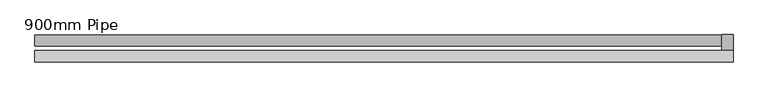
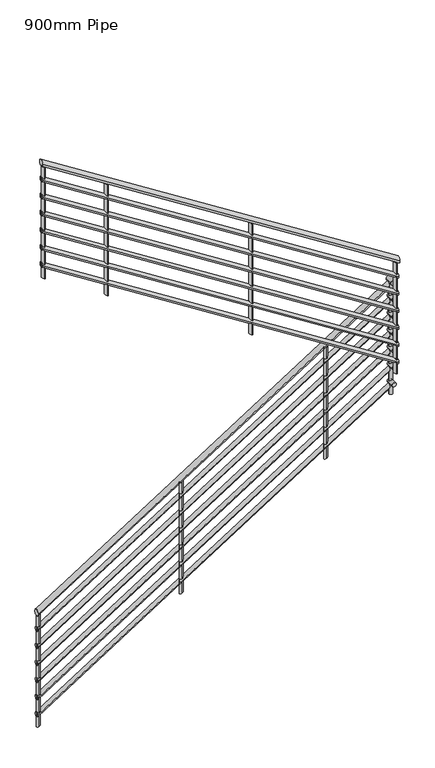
"""IFC4 building model written with IfcOpenShell, lengths in millimetres: railing geometry, 900mm Pipe."""

from ifc_helpers import new_model, si_unit, point, frame, frame_2d, origin, place, context, project, spatial, circle_curve, ellipse_curve, trimmed, segment, composite_curve, outline, extrude, source, transform, mapped, element, save
from ifc_brep_helpers import plane_surface, cylinder_surface, advanced_brep


def railing_900mm_pipe_91a3f817(model_context):
    return source(origin(), model_context, "Body", "SolidModel", [
        advanced_brep(
        [(9044.2181942, -645.4667097, 8051.2938094), (9044.2181942, -685.4667097, 8051.2938094), (11474.2181942, -645.4667097, 9597.6574458), (11474.2181942, -685.4667097, 9597.6574458)],
        [
            (0, 1, ellipse_curve(frame((9044.2181942, -665.4667097, 8051.2938094), z_axis=(-1.0, 0.0, 0.0), x_axis=(0.0, 0.0, -1.0)), 23.7061906, 20.0)),
            (1, 0, ellipse_curve(frame((9044.2181942, -665.4667097, 8051.2938094), z_axis=(-1.0, 0.0, 0.0), x_axis=(0.0, 0.0, -1.0)), 23.7061906, 20.0)),
            (2, 3, ellipse_curve(frame((11474.2181942, -665.4667097, 9597.6574458), z_axis=(1.0, 0.0, 0.0), x_axis=(0.0, 0.0, -1.0)), 23.7061906, 20.0)),
            (3, 2, ellipse_curve(frame((11474.2181942, -665.4667097, 9597.6574458), z_axis=(1.0, 0.0, 0.0), x_axis=(0.0, 0.0, -1.0)), 23.7061906, 20.0)),
            (1, 3),
            (2, 0),
        ],
        [
            plane_surface(frame((9044.2181942, -665.4667097, 8075.0), z_axis=(-1.0, 0.0, 0.0), x_axis=(0.0, 1.0, 0.0))),
            plane_surface(frame((11474.2181942, -665.4667097, 9621.3636364), z_axis=(1.0, 0.0, 0.0), x_axis=(0.0, 1.0, 0.0))),
            cylinder_surface(frame((9054.955704, -665.4667097, 8058.1267702), z_axis=(-0.8436614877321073, 0.0, -0.5368754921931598), x_axis=(0.0, -1.0, 0.0)), 20.0),
        ],
        [
            (0, [[1, 2]]),
            (1, [[3, 4]]),
            (2, [[-2, 5, -3, 6]]),
            (2, [[-1, -6, -4, -5]]),
        ],
    ),
        advanced_brep(
        [(11514.2181942, -645.4667097, 9630.0), (11474.2181942, -645.4667097, 9630.0), (11514.2181942, -702.0090589, 9630.0), (11474.2181942, -702.0090589, 9630.0)],
        [
            (0, 1, circle_curve(frame((11494.2181942, -645.4667097, 9630.0), z_axis=(0.0, 1.0, 0.0), x_axis=(-1.0, 0.0, 0.0)), 20.0)),
            (1, 0, circle_curve(frame((11494.2181942, -645.4667097, 9630.0), z_axis=(0.0, 1.0, 0.0), x_axis=(-1.0, 0.0, 0.0)), 20.0)),
            (2, 3, circle_curve(frame((11494.2181942, -702.0090589, 9630.0), z_axis=(0.0, -1.0, 0.0), x_axis=(-1.0, 0.0, 0.0)), 20.0)),
            (3, 2, circle_curve(frame((11494.2181942, -702.0090589, 9630.0), z_axis=(0.0, -1.0, 0.0), x_axis=(-1.0, 0.0, 0.0)), 20.0)),
            (1, 3),
            (2, 0),
        ],
        [
            plane_surface(frame((11494.2181942, -645.4667097, 9650.0), z_axis=(0.0, 1.0, 0.0), x_axis=(0.0, 0.0, -1.0))),
            plane_surface(frame((11494.2181942, -702.0090589, 9650.0), z_axis=(0.0, -1.0, 0.0), x_axis=(0.0, 0.0, -1.0))),
            cylinder_surface(frame((11494.2181942, -645.4667097, 9630.0), z_axis=(0.0, 1.0, 0.0), x_axis=(-1.0, 0.0, 0.0)), 20.0),
        ],
        [
            (0, [[1, 2]]),
            (1, [[3, 4]]),
            (2, [[-2, 5, -3, 6]]),
            (2, [[-1, -6, -4, -5]]),
        ],
    ),
        advanced_brep(
        [(11514.2181942, -742.0090589, 9804.4756276), (11514.2181942, -702.0090589, 9804.4756276), (9044.2181942, -742.0090589, 11376.2938094), (9044.2181942, -702.0090589, 11376.2938094)],
        [
            (0, 1, ellipse_curve(frame((11514.2181942, -722.0090589, 9804.4756276), z_axis=(1.0, 0.0, 0.0), x_axis=(0.0, 0.0, -1.0)), 23.7061906, 20.0)),
            (1, 0, ellipse_curve(frame((11514.2181942, -722.0090589, 9804.4756276), z_axis=(1.0, 0.0, 0.0), x_axis=(0.0, 0.0, -1.0)), 23.7061906, 20.0)),
            (2, 3, ellipse_curve(frame((9044.2181942, -722.0090589, 11376.2938094), z_axis=(-1.0, 0.0, 0.0), x_axis=(0.0, 0.0, -1.0)), 23.7061906, 20.0)),
            (3, 2, ellipse_curve(frame((9044.2181942, -722.0090589, 11376.2938094), z_axis=(-1.0, 0.0, 0.0), x_axis=(0.0, 0.0, -1.0)), 23.7061906, 20.0)),
            (1, 3),
            (2, 0),
        ],
        [
            plane_surface(frame((11514.2181942, -722.0090589, 9828.1818182), z_axis=(1.0, 0.0, 0.0), x_axis=(0.0, -1.0, 0.0))),
            plane_surface(frame((9044.2181942, -722.0090589, 11400.0), z_axis=(-1.0, 0.0, 0.0), x_axis=(0.0, -1.0, 0.0))),
            cylinder_surface(frame((11503.4806843, -722.0090589, 9811.3085884), z_axis=(0.8436614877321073, 0.0, -0.5368754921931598), x_axis=(0.0, 1.0, 0.0)), 20.0),
        ],
        [
            (0, [[1, 2]]),
            (1, [[3, 4]]),
            (2, [[-2, 5, -3, 6]]),
            (2, [[-1, -6, -4, -5]]),
        ],
    ),
        advanced_brep(
        [(9044.2181942, -650.4667097, 7932.2203571), (9044.2181942, -680.4667097, 7932.2203571), (11479.2181942, -650.4667097, 9481.7658116), (11479.2181942, -680.4667097, 9481.7658116)],
        [
            (0, 1, ellipse_curve(frame((9044.2181942, -665.4667097, 7932.2203571), z_axis=(-1.0, 0.0, 0.0), x_axis=(0.0, 0.0, -1.0)), 17.7796429, 15.0)),
            (1, 0, ellipse_curve(frame((9044.2181942, -665.4667097, 7932.2203571), z_axis=(-1.0, 0.0, 0.0), x_axis=(0.0, 0.0, -1.0)), 17.7796429, 15.0)),
            (2, 3, ellipse_curve(frame((11479.2181942, -665.4667097, 9481.7658116), z_axis=(1.0, 0.0, 0.0), x_axis=(0.0, 0.0, -1.0)), 17.7796429, 15.0)),
            (3, 2, ellipse_curve(frame((11479.2181942, -665.4667097, 9481.7658116), z_axis=(1.0, 0.0, 0.0), x_axis=(0.0, 0.0, -1.0)), 17.7796429, 15.0)),
            (1, 3),
            (2, 0),
        ],
        [
            plane_surface(frame((9044.2181942, -665.4667097, 7950.0), z_axis=(-1.0, 0.0, 0.0), x_axis=(0.0, 1.0, 0.0))),
            plane_surface(frame((11479.2181942, -665.4667097, 9499.5454545), z_axis=(1.0, 0.0, 0.0), x_axis=(0.0, 1.0, 0.0))),
            cylinder_surface(frame((9052.2713265, -665.4667097, 7937.3450777), z_axis=(-0.8436614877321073, 0.0, -0.5368754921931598), x_axis=(0.0, -1.0, 0.0)), 15.0),
        ],
        [
            (0, [[1, 2]]),
            (1, [[3, 4]]),
            (2, [[-2, 5, -3, 6]]),
            (2, [[-1, -6, -4, -5]]),
        ],
    ),
        advanced_brep(
        [(11509.2181942, -650.4667097, 9510.0), (11479.2181942, -650.4667097, 9510.0), (11509.2181942, -707.0090589, 9510.0), (11479.2181942, -707.0090589, 9510.0)],
        [
            (0, 1, circle_curve(frame((11494.2181942, -650.4667097, 9510.0), z_axis=(0.0, 1.0, 0.0), x_axis=(-1.0, 0.0, 0.0)), 15.0)),
            (1, 0, circle_curve(frame((11494.2181942, -650.4667097, 9510.0), z_axis=(0.0, 1.0, 0.0), x_axis=(-1.0, 0.0, 0.0)), 15.0)),
            (2, 3, circle_curve(frame((11494.2181942, -707.0090589, 9510.0), z_axis=(0.0, -1.0, 0.0), x_axis=(-1.0, 0.0, 0.0)), 15.0)),
            (3, 2, circle_curve(frame((11494.2181942, -707.0090589, 9510.0), z_axis=(0.0, -1.0, 0.0), x_axis=(-1.0, 0.0, 0.0)), 15.0)),
            (1, 3),
            (2, 0),
        ],
        [
            plane_surface(frame((11494.2181942, -650.4667097, 9525.0), z_axis=(0.0, 1.0, 0.0), x_axis=(0.0, 0.0, -1.0))),
            plane_surface(frame((11494.2181942, -707.0090589, 9525.0), z_axis=(0.0, -1.0, 0.0), x_axis=(0.0, 0.0, -1.0))),
            cylinder_surface(frame((11494.2181942, -650.4667097, 9510.0), z_axis=(0.0, 1.0, 0.0), x_axis=(-1.0, 0.0, 0.0)), 15.0),
        ],
        [
            (0, [[1, 2]]),
            (1, [[3, 4]]),
            (2, [[-2, 5, -3, 6]]),
            (2, [[-1, -6, -4, -5]]),
        ],
    ),
        advanced_brep(
        [(11509.2181942, -737.0090589, 9688.5839934), (11509.2181942, -707.0090589, 9688.5839934), (9044.2181942, -737.0090589, 11257.2203571), (9044.2181942, -707.0090589, 11257.2203571)],
        [
            (0, 1, ellipse_curve(frame((11509.2181942, -722.0090589, 9688.5839934), z_axis=(1.0, 0.0, 0.0), x_axis=(0.0, 0.0, -1.0)), 17.7796429, 15.0)),
            (1, 0, ellipse_curve(frame((11509.2181942, -722.0090589, 9688.5839934), z_axis=(1.0, 0.0, 0.0), x_axis=(0.0, 0.0, -1.0)), 17.7796429, 15.0)),
            (2, 3, ellipse_curve(frame((9044.2181942, -722.0090589, 11257.2203571), z_axis=(-1.0, 0.0, 0.0), x_axis=(0.0, 0.0, -1.0)), 17.7796429, 15.0)),
            (3, 2, ellipse_curve(frame((9044.2181942, -722.0090589, 11257.2203571), z_axis=(-1.0, 0.0, 0.0), x_axis=(0.0, 0.0, -1.0)), 17.7796429, 15.0)),
            (1, 3),
            (2, 0),
        ],
        [
            plane_surface(frame((11509.2181942, -722.0090589, 9706.3636364), z_axis=(1.0, 0.0, 0.0), x_axis=(0.0, -1.0, 0.0))),
            plane_surface(frame((9044.2181942, -722.0090589, 11275.0), z_axis=(-1.0, 0.0, 0.0), x_axis=(0.0, -1.0, 0.0))),
            cylinder_surface(frame((11501.1650618, -722.0090589, 9693.708714), z_axis=(0.8436614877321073, 0.0, -0.5368754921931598), x_axis=(0.0, 1.0, 0.0)), 15.0),
        ],
        [
            (0, [[1, 2]]),
            (1, [[3, 4]]),
            (2, [[-2, 5, -3, 6]]),
            (2, [[-1, -6, -4, -5]]),
        ],
    ),
        advanced_brep(
        [(9044.2181942, -650.4667097, 7807.2203571), (9044.2181942, -680.4667097, 7807.2203571), (11479.2181942, -650.4667097, 9356.7658116), (11479.2181942, -680.4667097, 9356.7658116)],
        [
            (0, 1, ellipse_curve(frame((9044.2181942, -665.4667097, 7807.2203571), z_axis=(-1.0, 0.0, 0.0), x_axis=(0.0, 0.0, -1.0)), 17.7796429, 15.0)),
            (1, 0, ellipse_curve(frame((9044.2181942, -665.4667097, 7807.2203571), z_axis=(-1.0, 0.0, 0.0), x_axis=(0.0, 0.0, -1.0)), 17.7796429, 15.0)),
            (2, 3, ellipse_curve(frame((11479.2181942, -665.4667097, 9356.7658116), z_axis=(1.0, 0.0, 0.0), x_axis=(0.0, 0.0, -1.0)), 17.7796429, 15.0)),
            (3, 2, ellipse_curve(frame((11479.2181942, -665.4667097, 9356.7658116), z_axis=(1.0, 0.0, 0.0), x_axis=(0.0, 0.0, -1.0)), 17.7796429, 15.0)),
            (1, 3),
            (2, 0),
        ],
        [
            plane_surface(frame((9044.2181942, -665.4667097, 7825.0), z_axis=(-1.0, 0.0, 0.0), x_axis=(0.0, 1.0, 0.0))),
            plane_surface(frame((11479.2181942, -665.4667097, 9374.5454545), z_axis=(1.0, 0.0, 0.0), x_axis=(0.0, 1.0, 0.0))),
            cylinder_surface(frame((9052.2713265, -665.4667097, 7812.3450777), z_axis=(-0.8436614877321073, 0.0, -0.5368754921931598), x_axis=(0.0, -1.0, 0.0)), 15.0),
        ],
        [
            (0, [[1, 2]]),
            (1, [[3, 4]]),
            (2, [[-2, 5, -3, 6]]),
            (2, [[-1, -6, -4, -5]]),
        ],
    ),
        advanced_brep(
        [(11509.2181942, -650.4667097, 9385.0), (11479.2181942, -650.4667097, 9385.0), (11509.2181942, -707.0090589, 9385.0), (11479.2181942, -707.0090589, 9385.0)],
        [
            (0, 1, circle_curve(frame((11494.2181942, -650.4667097, 9385.0), z_axis=(0.0, 1.0, 0.0), x_axis=(-1.0, 0.0, 0.0)), 15.0)),
            (1, 0, circle_curve(frame((11494.2181942, -650.4667097, 9385.0), z_axis=(0.0, 1.0, 0.0), x_axis=(-1.0, 0.0, 0.0)), 15.0)),
            (2, 3, circle_curve(frame((11494.2181942, -707.0090589, 9385.0), z_axis=(0.0, -1.0, 0.0), x_axis=(-1.0, 0.0, 0.0)), 15.0)),
            (3, 2, circle_curve(frame((11494.2181942, -707.0090589, 9385.0), z_axis=(0.0, -1.0, 0.0), x_axis=(-1.0, 0.0, 0.0)), 15.0)),
            (1, 3),
            (2, 0),
        ],
        [
            plane_surface(frame((11494.2181942, -650.4667097, 9400.0), z_axis=(0.0, 1.0, 0.0), x_axis=(0.0, 0.0, -1.0))),
            plane_surface(frame((11494.2181942, -707.0090589, 9400.0), z_axis=(0.0, -1.0, 0.0), x_axis=(0.0, 0.0, -1.0))),
            cylinder_surface(frame((11494.2181942, -650.4667097, 9385.0), z_axis=(0.0, 1.0, 0.0), x_axis=(-1.0, 0.0, 0.0)), 15.0),
        ],
        [
            (0, [[1, 2]]),
            (1, [[3, 4]]),
            (2, [[-2, 5, -3, 6]]),
            (2, [[-1, -6, -4, -5]]),
        ],
    ),
        advanced_brep(
        [(11509.2181942, -737.0090589, 9563.5839934), (11509.2181942, -707.0090589, 9563.5839934), (9044.2181942, -737.0090589, 11132.2203571), (9044.2181942, -707.0090589, 11132.2203571)],
        [
            (0, 1, ellipse_curve(frame((11509.2181942, -722.0090589, 9563.5839934), z_axis=(1.0, 0.0, 0.0), x_axis=(0.0, 0.0, -1.0)), 17.7796429, 15.0)),
            (1, 0, ellipse_curve(frame((11509.2181942, -722.0090589, 9563.5839934), z_axis=(1.0, 0.0, 0.0), x_axis=(0.0, 0.0, -1.0)), 17.7796429, 15.0)),
            (2, 3, ellipse_curve(frame((9044.2181942, -722.0090589, 11132.2203571), z_axis=(-1.0, 0.0, 0.0), x_axis=(0.0, 0.0, -1.0)), 17.7796429, 15.0)),
            (3, 2, ellipse_curve(frame((9044.2181942, -722.0090589, 11132.2203571), z_axis=(-1.0, 0.0, 0.0), x_axis=(0.0, 0.0, -1.0)), 17.7796429, 15.0)),
            (1, 3),
            (2, 0),
        ],
        [
            plane_surface(frame((11509.2181942, -722.0090589, 9581.3636364), z_axis=(1.0, 0.0, 0.0), x_axis=(0.0, -1.0, 0.0))),
            plane_surface(frame((9044.2181942, -722.0090589, 11150.0), z_axis=(-1.0, 0.0, 0.0), x_axis=(0.0, -1.0, 0.0))),
            cylinder_surface(frame((11501.1650618, -722.0090589, 9568.708714), z_axis=(0.8436614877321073, 0.0, -0.5368754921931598), x_axis=(0.0, 1.0, 0.0)), 15.0),
        ],
        [
            (0, [[1, 2]]),
            (1, [[3, 4]]),
            (2, [[-2, 5, -3, 6]]),
            (2, [[-1, -6, -4, -5]]),
        ],
    ),
        advanced_brep(
        [(9044.2181942, -650.4667097, 7682.2203571), (9044.2181942, -680.4667097, 7682.2203571), (11479.2181942, -650.4667097, 9231.7658116), (11479.2181942, -680.4667097, 9231.7658116)],
        [
            (0, 1, ellipse_curve(frame((9044.2181942, -665.4667097, 7682.2203571), z_axis=(-1.0, 0.0, 0.0), x_axis=(0.0, 0.0, -1.0)), 17.7796429, 15.0)),
            (1, 0, ellipse_curve(frame((9044.2181942, -665.4667097, 7682.2203571), z_axis=(-1.0, 0.0, 0.0), x_axis=(0.0, 0.0, -1.0)), 17.7796429, 15.0)),
            (2, 3, ellipse_curve(frame((11479.2181942, -665.4667097, 9231.7658116), z_axis=(1.0, 0.0, 0.0), x_axis=(0.0, 0.0, -1.0)), 17.7796429, 15.0)),
            (3, 2, ellipse_curve(frame((11479.2181942, -665.4667097, 9231.7658116), z_axis=(1.0, 0.0, 0.0), x_axis=(0.0, 0.0, -1.0)), 17.7796429, 15.0)),
            (1, 3),
            (2, 0),
        ],
        [
            plane_surface(frame((9044.2181942, -665.4667097, 7700.0), z_axis=(-1.0, 0.0, 0.0), x_axis=(0.0, 1.0, 0.0))),
            plane_surface(frame((11479.2181942, -665.4667097, 9249.5454545), z_axis=(1.0, 0.0, 0.0), x_axis=(0.0, 1.0, 0.0))),
            cylinder_surface(frame((9052.2713265, -665.4667097, 7687.3450777), z_axis=(-0.8436614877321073, 0.0, -0.5368754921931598), x_axis=(0.0, -1.0, 0.0)), 15.0),
        ],
        [
            (0, [[1, 2]]),
            (1, [[3, 4]]),
            (2, [[-2, 5, -3, 6]]),
            (2, [[-1, -6, -4, -5]]),
        ],
    ),
        advanced_brep(
        [(11509.2181942, -650.4667097, 9260.0), (11479.2181942, -650.4667097, 9260.0), (11509.2181942, -707.0090589, 9260.0), (11479.2181942, -707.0090589, 9260.0)],
        [
            (0, 1, circle_curve(frame((11494.2181942, -650.4667097, 9260.0), z_axis=(0.0, 1.0, 0.0), x_axis=(-1.0, 0.0, 0.0)), 15.0)),
            (1, 0, circle_curve(frame((11494.2181942, -650.4667097, 9260.0), z_axis=(0.0, 1.0, 0.0), x_axis=(-1.0, 0.0, 0.0)), 15.0)),
            (2, 3, circle_curve(frame((11494.2181942, -707.0090589, 9260.0), z_axis=(0.0, -1.0, 0.0), x_axis=(-1.0, 0.0, 0.0)), 15.0)),
            (3, 2, circle_curve(frame((11494.2181942, -707.0090589, 9260.0), z_axis=(0.0, -1.0, 0.0), x_axis=(-1.0, 0.0, 0.0)), 15.0)),
            (1, 3),
            (2, 0),
        ],
        [
            plane_surface(frame((11494.2181942, -650.4667097, 9275.0), z_axis=(0.0, 1.0, 0.0), x_axis=(0.0, 0.0, -1.0))),
            plane_surface(frame((11494.2181942, -707.0090589, 9275.0), z_axis=(0.0, -1.0, 0.0), x_axis=(0.0, 0.0, -1.0))),
            cylinder_surface(frame((11494.2181942, -650.4667097, 9260.0), z_axis=(0.0, 1.0, 0.0), x_axis=(-1.0, 0.0, 0.0)), 15.0),
        ],
        [
            (0, [[1, 2]]),
            (1, [[3, 4]]),
            (2, [[-2, 5, -3, 6]]),
            (2, [[-1, -6, -4, -5]]),
        ],
    ),
        advanced_brep(
        [(11509.2181942, -737.0090589, 9438.5839934), (11509.2181942, -707.0090589, 9438.5839934), (9044.2181942, -737.0090589, 11007.2203571), (9044.2181942, -707.0090589, 11007.2203571)],
        [
            (0, 1, ellipse_curve(frame((11509.2181942, -722.0090589, 9438.5839934), z_axis=(1.0, 0.0, 0.0), x_axis=(0.0, 0.0, -1.0)), 17.7796429, 15.0)),
            (1, 0, ellipse_curve(frame((11509.2181942, -722.0090589, 9438.5839934), z_axis=(1.0, 0.0, 0.0), x_axis=(0.0, 0.0, -1.0)), 17.7796429, 15.0)),
            (2, 3, ellipse_curve(frame((9044.2181942, -722.0090589, 11007.2203571), z_axis=(-1.0, 0.0, 0.0), x_axis=(0.0, 0.0, -1.0)), 17.7796429, 15.0)),
            (3, 2, ellipse_curve(frame((9044.2181942, -722.0090589, 11007.2203571), z_axis=(-1.0, 0.0, 0.0), x_axis=(0.0, 0.0, -1.0)), 17.7796429, 15.0)),
            (1, 3),
            (2, 0),
        ],
        [
            plane_surface(frame((11509.2181942, -722.0090589, 9456.3636364), z_axis=(1.0, 0.0, 0.0), x_axis=(0.0, -1.0, 0.0))),
            plane_surface(frame((9044.2181942, -722.0090589, 11025.0), z_axis=(-1.0, 0.0, 0.0), x_axis=(0.0, -1.0, 0.0))),
            cylinder_surface(frame((11501.1650618, -722.0090589, 9443.708714), z_axis=(0.843661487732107, 0.0, -0.53687549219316), x_axis=(0.0, 1.0, 0.0)), 15.0),
        ],
        [
            (0, [[1, 2]]),
            (1, [[3, 4]]),
            (2, [[-2, 5, -3, 6]]),
            (2, [[-1, -6, -4, -5]]),
        ],
    ),
        advanced_brep(
        [(9044.2181942, -650.4667097, 7557.2203571), (9044.2181942, -680.4667097, 7557.2203571), (11479.2181942, -650.4667097, 9106.7658116), (11479.2181942, -680.4667097, 9106.7658116)],
        [
            (0, 1, ellipse_curve(frame((9044.2181942, -665.4667097, 7557.2203571), z_axis=(-1.0, 0.0, 0.0), x_axis=(0.0, 0.0, -1.0)), 17.7796429, 15.0)),
            (1, 0, ellipse_curve(frame((9044.2181942, -665.4667097, 7557.2203571), z_axis=(-1.0, 0.0, 0.0), x_axis=(0.0, 0.0, -1.0)), 17.7796429, 15.0)),
            (2, 3, ellipse_curve(frame((11479.2181942, -665.4667097, 9106.7658116), z_axis=(1.0, 0.0, 0.0), x_axis=(0.0, 0.0, -1.0)), 17.7796429, 15.0)),
            (3, 2, ellipse_curve(frame((11479.2181942, -665.4667097, 9106.7658116), z_axis=(1.0, 0.0, 0.0), x_axis=(0.0, 0.0, -1.0)), 17.7796429, 15.0)),
            (1, 3),
            (2, 0),
        ],
        [
            plane_surface(frame((9044.2181942, -665.4667097, 7575.0), z_axis=(-1.0, 0.0, 0.0), x_axis=(0.0, 1.0, 0.0))),
            plane_surface(frame((11479.2181942, -665.4667097, 9124.5454545), z_axis=(1.0, 0.0, 0.0), x_axis=(0.0, 1.0, 0.0))),
            cylinder_surface(frame((9052.2713265, -665.4667097, 7562.3450777), z_axis=(-0.8436614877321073, 0.0, -0.5368754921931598), x_axis=(0.0, -1.0, 0.0)), 15.0),
        ],
        [
            (0, [[1, 2]]),
            (1, [[3, 4]]),
            (2, [[-2, 5, -3, 6]]),
            (2, [[-1, -6, -4, -5]]),
        ],
    ),
        advanced_brep(
        [(11509.2181942, -650.4667097, 9135.0), (11479.2181942, -650.4667097, 9135.0), (11509.2181942, -707.0090589, 9135.0), (11479.2181942, -707.0090589, 9135.0)],
        [
            (0, 1, circle_curve(frame((11494.2181942, -650.4667097, 9135.0), z_axis=(0.0, 1.0, 0.0), x_axis=(-1.0, 0.0, 0.0)), 15.0)),
            (1, 0, circle_curve(frame((11494.2181942, -650.4667097, 9135.0), z_axis=(0.0, 1.0, 0.0), x_axis=(-1.0, 0.0, 0.0)), 15.0)),
            (2, 3, circle_curve(frame((11494.2181942, -707.0090589, 9135.0), z_axis=(0.0, -1.0, 0.0), x_axis=(-1.0, 0.0, 0.0)), 15.0)),
            (3, 2, circle_curve(frame((11494.2181942, -707.0090589, 9135.0), z_axis=(0.0, -1.0, 0.0), x_axis=(-1.0, 0.0, 0.0)), 15.0)),
            (1, 3),
            (2, 0),
        ],
        [
            plane_surface(frame((11494.2181942, -650.4667097, 9150.0), z_axis=(0.0, 1.0, 0.0), x_axis=(0.0, 0.0, -1.0))),
            plane_surface(frame((11494.2181942, -707.0090589, 9150.0), z_axis=(0.0, -1.0, 0.0), x_axis=(0.0, 0.0, -1.0))),
            cylinder_surface(frame((11494.2181942, -650.4667097, 9135.0), z_axis=(0.0, 1.0, 0.0), x_axis=(-1.0, 0.0, 0.0)), 15.0),
        ],
        [
            (0, [[1, 2]]),
            (1, [[3, 4]]),
            (2, [[-2, 5, -3, 6]]),
            (2, [[-1, -6, -4, -5]]),
        ],
    ),
        advanced_brep(
        [(11509.2181942, -737.0090589, 9313.5839934), (11509.2181942, -707.0090589, 9313.5839934), (9044.2181942, -737.0090589, 10882.2203571), (9044.2181942, -707.0090589, 10882.2203571)],
        [
            (0, 1, ellipse_curve(frame((11509.2181942, -722.0090589, 9313.5839934), z_axis=(1.0, 0.0, 0.0), x_axis=(0.0, 0.0, -1.0)), 17.7796429, 15.0)),
            (1, 0, ellipse_curve(frame((11509.2181942, -722.0090589, 9313.5839934), z_axis=(1.0, 0.0, 0.0), x_axis=(0.0, 0.0, -1.0)), 17.7796429, 15.0)),
            (2, 3, ellipse_curve(frame((9044.2181942, -722.0090589, 10882.2203571), z_axis=(-1.0, 0.0, 0.0), x_axis=(0.0, 0.0, -1.0)), 17.7796429, 15.0)),
            (3, 2, ellipse_curve(frame((9044.2181942, -722.0090589, 10882.2203571), z_axis=(-1.0, 0.0, 0.0), x_axis=(0.0, 0.0, -1.0)), 17.7796429, 15.0)),
            (1, 3),
            (2, 0),
        ],
        [
            plane_surface(frame((11509.2181942, -722.0090589, 9331.3636364), z_axis=(1.0, 0.0, 0.0), x_axis=(0.0, -1.0, 0.0))),
            plane_surface(frame((9044.2181942, -722.0090589, 10900.0), z_axis=(-1.0, 0.0, 0.0), x_axis=(0.0, -1.0, 0.0))),
            cylinder_surface(frame((11501.1650618, -722.0090589, 9318.708714), z_axis=(0.843661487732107, 0.0, -0.53687549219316), x_axis=(0.0, 1.0, 0.0)), 15.0),
        ],
        [
            (0, [[1, 2]]),
            (1, [[3, 4]]),
            (2, [[-2, 5, -3, 6]]),
            (2, [[-1, -6, -4, -5]]),
        ],
    ),
        advanced_brep(
        [(9044.2181942, -650.4667097, 7432.2203571), (9044.2181942, -680.4667097, 7432.2203571), (11479.2181942, -650.4667097, 8981.7658116), (11479.2181942, -680.4667097, 8981.7658116)],
        [
            (0, 1, ellipse_curve(frame((9044.2181942, -665.4667097, 7432.2203571), z_axis=(-1.0, 0.0, 0.0), x_axis=(0.0, 0.0, -1.0)), 17.7796429, 15.0)),
            (1, 0, ellipse_curve(frame((9044.2181942, -665.4667097, 7432.2203571), z_axis=(-1.0, 0.0, 0.0), x_axis=(0.0, 0.0, -1.0)), 17.7796429, 15.0)),
            (2, 3, ellipse_curve(frame((11479.2181942, -665.4667097, 8981.7658116), z_axis=(1.0, 0.0, 0.0), x_axis=(0.0, 0.0, -1.0)), 17.7796429, 15.0)),
            (3, 2, ellipse_curve(frame((11479.2181942, -665.4667097, 8981.7658116), z_axis=(1.0, 0.0, 0.0), x_axis=(0.0, 0.0, -1.0)), 17.7796429, 15.0)),
            (1, 3),
            (2, 0),
        ],
        [
            plane_surface(frame((9044.2181942, -665.4667097, 7450.0), z_axis=(-1.0, 0.0, 0.0), x_axis=(0.0, 1.0, 0.0))),
            plane_surface(frame((11479.2181942, -665.4667097, 8999.5454545), z_axis=(1.0, 0.0, 0.0), x_axis=(0.0, 1.0, 0.0))),
            cylinder_surface(frame((9052.2713265, -665.4667097, 7437.3450777), z_axis=(-0.8436614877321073, 0.0, -0.5368754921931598), x_axis=(0.0, -1.0, 0.0)), 15.0),
        ],
        [
            (0, [[1, 2]]),
            (1, [[3, 4]]),
            (2, [[-2, 5, -3, 6]]),
            (2, [[-1, -6, -4, -5]]),
        ],
    ),
        advanced_brep(
        [(11509.2181942, -650.4667097, 9010.0), (11479.2181942, -650.4667097, 9010.0), (11509.2181942, -707.0090589, 9010.0), (11479.2181942, -707.0090589, 9010.0)],
        [
            (0, 1, circle_curve(frame((11494.2181942, -650.4667097, 9010.0), z_axis=(0.0, 1.0, 0.0), x_axis=(-1.0, 0.0, 0.0)), 15.0)),
            (1, 0, circle_curve(frame((11494.2181942, -650.4667097, 9010.0), z_axis=(0.0, 1.0, 0.0), x_axis=(-1.0, 0.0, 0.0)), 15.0)),
            (2, 3, circle_curve(frame((11494.2181942, -707.0090589, 9010.0), z_axis=(0.0, -1.0, 0.0), x_axis=(-1.0, 0.0, 0.0)), 15.0)),
            (3, 2, circle_curve(frame((11494.2181942, -707.0090589, 9010.0), z_axis=(0.0, -1.0, 0.0), x_axis=(-1.0, 0.0, 0.0)), 15.0)),
            (1, 3),
            (2, 0),
        ],
        [
            plane_surface(frame((11494.2181942, -650.4667097, 9025.0), z_axis=(0.0, 1.0, 0.0), x_axis=(0.0, 0.0, -1.0))),
            plane_surface(frame((11494.2181942, -707.0090589, 9025.0), z_axis=(0.0, -1.0, 0.0), x_axis=(0.0, 0.0, -1.0))),
            cylinder_surface(frame((11494.2181942, -650.4667097, 9010.0), z_axis=(0.0, 1.0, 0.0), x_axis=(-1.0, 0.0, 0.0)), 15.0),
        ],
        [
            (0, [[1, 2]]),
            (1, [[3, 4]]),
            (2, [[-2, 5, -3, 6]]),
            (2, [[-1, -6, -4, -5]]),
        ],
    ),
        advanced_brep(
        [(11509.2181942, -737.0090589, 9188.5839934), (11509.2181942, -707.0090589, 9188.5839934), (9044.2181942, -737.0090589, 10757.2203571), (9044.2181942, -707.0090589, 10757.2203571)],
        [
            (0, 1, ellipse_curve(frame((11509.2181942, -722.0090589, 9188.5839934), z_axis=(1.0, 0.0, 0.0), x_axis=(0.0, 0.0, -1.0)), 17.7796429, 15.0)),
            (1, 0, ellipse_curve(frame((11509.2181942, -722.0090589, 9188.5839934), z_axis=(1.0, 0.0, 0.0), x_axis=(0.0, 0.0, -1.0)), 17.7796429, 15.0)),
            (2, 3, ellipse_curve(frame((9044.2181942, -722.0090589, 10757.2203571), z_axis=(-1.0, 0.0, 0.0), x_axis=(0.0, 0.0, -1.0)), 17.7796429, 15.0)),
            (3, 2, ellipse_curve(frame((9044.2181942, -722.0090589, 10757.2203571), z_axis=(-1.0, 0.0, 0.0), x_axis=(0.0, 0.0, -1.0)), 17.7796429, 15.0)),
            (1, 3),
            (2, 0),
        ],
        [
            plane_surface(frame((11509.2181942, -722.0090589, 9206.3636364), z_axis=(1.0, 0.0, 0.0), x_axis=(0.0, -1.0, 0.0))),
            plane_surface(frame((9044.2181942, -722.0090589, 10775.0), z_axis=(-1.0, 0.0, 0.0), x_axis=(0.0, -1.0, 0.0))),
            cylinder_surface(frame((11501.1650618, -722.0090589, 9193.708714), z_axis=(0.843661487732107, 0.0, -0.53687549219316), x_axis=(0.0, 1.0, 0.0)), 15.0),
        ],
        [
            (0, [[1, 2]]),
            (1, [[3, 4]]),
            (2, [[-2, 5, -3, 6]]),
            (2, [[-1, -6, -4, -5]]),
        ],
    ),
        advanced_brep(
        [(9044.2181942, -650.4667097, 7307.2203571), (9044.2181942, -680.4667097, 7307.2203571), (11479.2181942, -650.4667097, 8856.7658116), (11479.2181942, -680.4667097, 8856.7658116)],
        [
            (0, 1, ellipse_curve(frame((9044.2181942, -665.4667097, 7307.2203571), z_axis=(-1.0, 0.0, 0.0), x_axis=(0.0, 0.0, -1.0)), 17.7796429, 15.0)),
            (1, 0, ellipse_curve(frame((9044.2181942, -665.4667097, 7307.2203571), z_axis=(-1.0, 0.0, 0.0), x_axis=(0.0, 0.0, -1.0)), 17.7796429, 15.0)),
            (2, 3, ellipse_curve(frame((11479.2181942, -665.4667097, 8856.7658116), z_axis=(1.0, 0.0, 0.0), x_axis=(0.0, 0.0, -1.0)), 17.7796429, 15.0)),
            (3, 2, ellipse_curve(frame((11479.2181942, -665.4667097, 8856.7658116), z_axis=(1.0, 0.0, 0.0), x_axis=(0.0, 0.0, -1.0)), 17.7796429, 15.0)),
            (1, 3),
            (2, 0),
        ],
        [
            plane_surface(frame((9044.2181942, -665.4667097, 7325.0), z_axis=(-1.0, 0.0, 0.0), x_axis=(0.0, 1.0, 0.0))),
            plane_surface(frame((11479.2181942, -665.4667097, 8874.5454545), z_axis=(1.0, 0.0, 0.0), x_axis=(0.0, 1.0, 0.0))),
            cylinder_surface(frame((9052.2713265, -665.4667097, 7312.3450777), z_axis=(-0.8436614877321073, 0.0, -0.5368754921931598), x_axis=(0.0, -1.0, 0.0)), 15.0),
        ],
        [
            (0, [[1, 2]]),
            (1, [[3, 4]]),
            (2, [[-2, 5, -3, 6]]),
            (2, [[-1, -6, -4, -5]]),
        ],
    ),
        advanced_brep(
        [(11509.2181942, -650.4667097, 8885.0), (11479.2181942, -650.4667097, 8885.0), (11509.2181942, -707.0090589, 8885.0), (11479.2181942, -707.0090589, 8885.0)],
        [
            (0, 1, circle_curve(frame((11494.2181942, -650.4667097, 8885.0), z_axis=(0.0, 1.0, 0.0), x_axis=(-1.0, 0.0, 0.0)), 15.0)),
            (1, 0, circle_curve(frame((11494.2181942, -650.4667097, 8885.0), z_axis=(0.0, 1.0, 0.0), x_axis=(-1.0, 0.0, 0.0)), 15.0)),
            (2, 3, circle_curve(frame((11494.2181942, -707.0090589, 8885.0), z_axis=(0.0, -1.0, 0.0), x_axis=(-1.0, 0.0, 0.0)), 15.0)),
            (3, 2, circle_curve(frame((11494.2181942, -707.0090589, 8885.0), z_axis=(0.0, -1.0, 0.0), x_axis=(-1.0, 0.0, 0.0)), 15.0)),
            (1, 3),
            (2, 0),
        ],
        [
            plane_surface(frame((11494.2181942, -650.4667097, 8900.0), z_axis=(0.0, 1.0, 0.0), x_axis=(0.0, 0.0, -1.0))),
            plane_surface(frame((11494.2181942, -707.0090589, 8900.0), z_axis=(0.0, -1.0, 0.0), x_axis=(0.0, 0.0, -1.0))),
            cylinder_surface(frame((11494.2181942, -650.4667097, 8885.0), z_axis=(0.0, 1.0, 0.0), x_axis=(-1.0, 0.0, 0.0)), 15.0),
        ],
        [
            (0, [[1, 2]]),
            (1, [[3, 4]]),
            (2, [[-2, 5, -3, 6]]),
            (2, [[-1, -6, -4, -5]]),
        ],
    ),
        advanced_brep(
        [(11509.2181942, -737.0090589, 9063.5839934), (11509.2181942, -707.0090589, 9063.5839934), (9044.2181942, -737.0090589, 10632.2203571), (9044.2181942, -707.0090589, 10632.2203571)],
        [
            (0, 1, ellipse_curve(frame((11509.2181942, -722.0090589, 9063.5839934), z_axis=(1.0, 0.0, 0.0), x_axis=(0.0, 0.0, -1.0)), 17.7796429, 15.0)),
            (1, 0, ellipse_curve(frame((11509.2181942, -722.0090589, 9063.5839934), z_axis=(1.0, 0.0, 0.0), x_axis=(0.0, 0.0, -1.0)), 17.7796429, 15.0)),
            (2, 3, ellipse_curve(frame((9044.2181942, -722.0090589, 10632.2203571), z_axis=(-1.0, 0.0, 0.0), x_axis=(0.0, 0.0, -1.0)), 17.7796429, 15.0)),
            (3, 2, ellipse_curve(frame((9044.2181942, -722.0090589, 10632.2203571), z_axis=(-1.0, 0.0, 0.0), x_axis=(0.0, 0.0, -1.0)), 17.7796429, 15.0)),
            (1, 3),
            (2, 0),
        ],
        [
            plane_surface(frame((11509.2181942, -722.0090589, 9081.3636364), z_axis=(1.0, 0.0, 0.0), x_axis=(0.0, -1.0, 0.0))),
            plane_surface(frame((9044.2181942, -722.0090589, 10650.0), z_axis=(-1.0, 0.0, 0.0), x_axis=(0.0, -1.0, 0.0))),
            cylinder_surface(frame((11501.1650618, -722.0090589, 9068.708714), z_axis=(0.8436614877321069, 0.0, -0.5368754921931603), x_axis=(0.0, 1.0, 0.0)), 15.0),
        ],
        [
            (0, [[1, 2]]),
            (1, [[3, 4]]),
            (2, [[-2, 5, -3, 6]]),
            (2, [[-1, -6, -4, -5]]),
        ],
    ),
        advanced_brep(
        [(9494.2181942, -709.5090589, 11066.2239825), (9494.2181942, -709.5090589, 10254.1032768), (9494.2181942, -734.5090589, 10254.1032768), (9494.2181942, -734.5090589, 11066.2239825)],
        [
            (0, 1),
            (1, 2, ellipse_curve(frame((9494.2181942, -722.0090589, 10254.1032768), z_axis=(0.5368754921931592, 0.0, 0.8436614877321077), x_axis=(-0.8436614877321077, 0.0, 0.5368754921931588)), 14.8163691, 12.5)),
            (2, 3),
            (3, 0, ellipse_curve(frame((9494.2181942, -722.0090589, 11066.2239825), z_axis=(-0.5368754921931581, 0.0, -0.8436614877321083), x_axis=(-0.8436614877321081, 0.0, 0.5368754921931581)), 14.8163691, 12.5)),
            (0, 3, ellipse_curve(frame((9494.2181942, -722.0090589, 11066.2239825), z_axis=(-0.5368754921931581, 0.0, -0.8436614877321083), x_axis=(-0.8436614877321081, 0.0, 0.5368754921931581)), 14.8163691, 12.5)),
            (2, 1, ellipse_curve(frame((9494.2181942, -722.0090589, 10254.1032768), z_axis=(0.5368754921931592, 0.0, 0.8436614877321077), x_axis=(-0.8436614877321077, 0.0, 0.5368754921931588)), 14.8163691, 12.5)),
        ],
        [
            cylinder_surface(frame((9494.2181942, -722.0090589, 10154.1032768), z_axis=(0.0, 0.0, 1.0), x_axis=(0.0, -1.0, 0.0)), 12.5),
            plane_surface(frame((9469.2181942, -747.0090589, 11082.1330734), z_axis=(0.5368754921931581, 0.0, 0.8436614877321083), x_axis=(0.0, 1.0, 0.0))),
            plane_surface(frame((9519.2181942, -747.0090589, 10238.1941859), z_axis=(-0.5368754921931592, 0.0, -0.8436614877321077), x_axis=(0.0, 1.0, 0.0))),
        ],
        [
            (0, [[1, 2, 3, 4]]),
            (0, [[-1, 5, -3, 6]]),
            (1, [[-4, -5]]),
            (2, [[-2, -6]]),
        ],
    ),
        advanced_brep(
        [(10494.2181942, -709.5090589, 10429.8603461), (10494.2181942, -709.5090589, 9617.7396405), (10494.2181942, -734.5090589, 9617.7396405), (10494.2181942, -734.5090589, 10429.8603461)],
        [
            (0, 1),
            (1, 2, ellipse_curve(frame((10494.2181942, -722.0090589, 9617.7396405), z_axis=(0.5368754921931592, 0.0, 0.8436614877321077), x_axis=(-0.8436614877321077, 0.0, 0.5368754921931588)), 14.8163691, 12.5)),
            (2, 3),
            (3, 0, ellipse_curve(frame((10494.2181942, -722.0090589, 10429.8603461), z_axis=(-0.5368754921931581, 0.0, -0.8436614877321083), x_axis=(-0.8436614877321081, 0.0, 0.5368754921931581)), 14.8163691, 12.5)),
            (0, 3, ellipse_curve(frame((10494.2181942, -722.0090589, 10429.8603461), z_axis=(-0.5368754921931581, 0.0, -0.8436614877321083), x_axis=(-0.8436614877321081, 0.0, 0.5368754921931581)), 14.8163691, 12.5)),
            (2, 1, ellipse_curve(frame((10494.2181942, -722.0090589, 9617.7396405), z_axis=(0.5368754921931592, 0.0, 0.8436614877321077), x_axis=(-0.8436614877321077, 0.0, 0.5368754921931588)), 14.8163691, 12.5)),
        ],
        [
            cylinder_surface(frame((10494.2181942, -722.0090589, 9517.7396405), z_axis=(0.0, 0.0, 1.0), x_axis=(0.0, -1.0, 0.0)), 12.5),
            plane_surface(frame((10469.2181942, -747.0090589, 10445.7694371), z_axis=(0.5368754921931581, 0.0, 0.8436614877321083), x_axis=(0.0, 1.0, 0.0))),
            plane_surface(frame((10519.2181942, -747.0090589, 9601.8305496), z_axis=(-0.5368754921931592, 0.0, -0.8436614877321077), x_axis=(0.0, 1.0, 0.0))),
        ],
        [
            (0, [[1, 2, 3, 4]]),
            (0, [[-1, 5, -3, 6]]),
            (1, [[-4, -5]]),
            (2, [[-2, -6]]),
        ],
    ),
        advanced_brep(
        [(11044.2181942, -677.9667097, 9300.3148916), (11044.2181942, -677.9667097, 8488.1941859), (11044.2181942, -652.9667097, 8488.1941859), (11044.2181942, -652.9667097, 9300.3148916)],
        [
            (0, 1),
            (1, 2, ellipse_curve(frame((11044.2181942, -665.4667097, 8488.1941859), z_axis=(-0.5368754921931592, 0.0, 0.8436614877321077), x_axis=(0.8436614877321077, 0.0, 0.5368754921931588)), 14.8163691, 12.5)),
            (2, 3),
            (3, 0, ellipse_curve(frame((11044.2181942, -665.4667097, 9300.3148916), z_axis=(0.5368754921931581, 0.0, -0.8436614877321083), x_axis=(0.8436614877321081, 0.0, 0.5368754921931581)), 14.8163691, 12.5)),
            (0, 3, ellipse_curve(frame((11044.2181942, -665.4667097, 9300.3148916), z_axis=(0.5368754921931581, 0.0, -0.8436614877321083), x_axis=(0.8436614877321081, 0.0, 0.5368754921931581)), 14.8163691, 12.5)),
            (2, 1, ellipse_curve(frame((11044.2181942, -665.4667097, 8488.1941859), z_axis=(-0.5368754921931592, 0.0, 0.8436614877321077), x_axis=(0.8436614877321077, 0.0, 0.5368754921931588)), 14.8163691, 12.5)),
        ],
        [
            cylinder_surface(frame((11044.2181942, -665.4667097, 8388.1941859), z_axis=(0.0, 0.0, 1.0), x_axis=(0.0, 1.0, 0.0)), 12.5),
            plane_surface(frame((11069.2181942, -640.4667097, 9316.2239825), z_axis=(-0.5368754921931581, 0.0, 0.8436614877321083), x_axis=(0.0, -1.0, 0.0))),
            plane_surface(frame((11019.2181942, -640.4667097, 8472.285095), z_axis=(0.5368754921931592, 0.0, -0.8436614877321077), x_axis=(0.0, -1.0, 0.0))),
        ],
        [
            (0, [[1, 2, 3, 4]]),
            (0, [[-1, 5, -3, 6]]),
            (1, [[-4, -5]]),
            (2, [[-2, -6]]),
        ],
    ),
        advanced_brep(
        [(10044.2181942, -677.9667097, 8663.9512552), (10044.2181942, -677.9667097, 7851.8305496), (10044.2181942, -652.9667097, 7851.8305496), (10044.2181942, -652.9667097, 8663.9512552)],
        [
            (0, 1),
            (1, 2, ellipse_curve(frame((10044.2181942, -665.4667097, 7851.8305496), z_axis=(-0.5368754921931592, 0.0, 0.8436614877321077), x_axis=(0.8436614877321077, 0.0, 0.5368754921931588)), 14.8163691, 12.5)),
            (2, 3),
            (3, 0, ellipse_curve(frame((10044.2181942, -665.4667097, 8663.9512552), z_axis=(0.5368754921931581, 0.0, -0.8436614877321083), x_axis=(0.8436614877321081, 0.0, 0.5368754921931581)), 14.8163691, 12.5)),
            (0, 3, ellipse_curve(frame((10044.2181942, -665.4667097, 8663.9512552), z_axis=(0.5368754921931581, 0.0, -0.8436614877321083), x_axis=(0.8436614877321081, 0.0, 0.5368754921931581)), 14.8163691, 12.5)),
            (2, 1, ellipse_curve(frame((10044.2181942, -665.4667097, 7851.8305496), z_axis=(-0.5368754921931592, 0.0, 0.8436614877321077), x_axis=(0.8436614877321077, 0.0, 0.5368754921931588)), 14.8163691, 12.5)),
        ],
        [
            cylinder_surface(frame((10044.2181942, -665.4667097, 7751.8305496), z_axis=(0.0, 0.0, 1.0), x_axis=(0.0, 1.0, 0.0)), 12.5),
            plane_surface(frame((10069.2181942, -640.4667097, 8679.8603461), z_axis=(-0.5368754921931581, 0.0, 0.8436614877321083), x_axis=(0.0, -1.0, 0.0))),
            plane_surface(frame((10019.2181942, -640.4667097, 7835.9214587), z_axis=(0.5368754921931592, 0.0, -0.8436614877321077), x_axis=(0.0, -1.0, 0.0))),
        ],
        [
            (0, [[1, 2, 3, 4]]),
            (0, [[-1, 5, -3, 6]]),
            (1, [[-4, -5]]),
            (2, [[-2, -6]]),
        ],
    ),
        advanced_brep(
        [(11494.2181942, -709.5090589, 9793.4967098), (11494.2181942, -709.5090589, 8981.3760041), (11494.2181942, -734.5090589, 8981.3760041), (11494.2181942, -734.5090589, 9793.4967098)],
        [
            (0, 1),
            (1, 2, ellipse_curve(frame((11494.2181942, -722.0090589, 8981.3760041), z_axis=(0.5368754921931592, 0.0, 0.8436614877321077), x_axis=(-0.8436614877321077, 0.0, 0.5368754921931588)), 14.8163691, 12.5)),
            (2, 3),
            (3, 0, ellipse_curve(frame((11494.2181942, -722.0090589, 9793.4967098), z_axis=(-0.5368754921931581, 0.0, -0.8436614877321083), x_axis=(-0.8436614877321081, 0.0, 0.5368754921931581)), 14.8163691, 12.5)),
            (0, 3, ellipse_curve(frame((11494.2181942, -722.0090589, 9793.4967098), z_axis=(-0.5368754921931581, 0.0, -0.8436614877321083), x_axis=(-0.8436614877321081, 0.0, 0.5368754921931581)), 14.8163691, 12.5)),
            (2, 1, ellipse_curve(frame((11494.2181942, -722.0090589, 8981.3760041), z_axis=(0.5368754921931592, 0.0, 0.8436614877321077), x_axis=(-0.8436614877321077, 0.0, 0.5368754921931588)), 14.8163691, 12.5)),
        ],
        [
            cylinder_surface(frame((11494.2181942, -722.0090589, 8881.3760041), z_axis=(0.0, 0.0, 1.0), x_axis=(0.0, -1.0, 0.0)), 12.5),
            plane_surface(frame((11469.2181942, -747.0090589, 9809.4058007), z_axis=(0.5368754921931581, 0.0, 0.8436614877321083), x_axis=(0.0, 1.0, 0.0))),
            plane_surface(frame((11519.2181942, -747.0090589, 8965.4669132), z_axis=(-0.5368754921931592, 0.0, -0.8436614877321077), x_axis=(0.0, 1.0, 0.0))),
        ],
        [
            (0, [[1, 2, 3, 4]]),
            (0, [[-1, 5, -3, 6]]),
            (1, [[-4, -5]]),
            (2, [[-2, -6]]),
        ],
    ),
        extrude(outline(composite_curve([segment(trimmed(circle_curve(frame_2d((11494.2181942, -665.4667097)), 12.5), [point((11506.7181942, -665.4667097))], [point((11481.7181942, -665.4667097))], False, "CARTESIAN"), True, "CONTINUOUS"), segment(trimmed(circle_curve(frame_2d((11494.2181942, -665.4667097)), 12.5), [point((11481.7181942, -665.4667097))], [point((11506.7181942, -665.4667097))], False, "CARTESIAN"), True, "CONTINUOUS")], self_intersect=False)), frame((0.0, 0.0, 8797.393727), z_axis=(0.0, 0.0, 1.0), x_axis=(1.0, 0.0, 0.0)), (0.0, 0.0, 1.0), 812.606273),
        advanced_brep(
        [(9056.7181942, -709.5090589, 11344.6330734), (9056.7181942, -709.5090589, 10532.5123678), (9056.7181942, -734.5090589, 10532.5123678), (9056.7181942, -734.5090589, 11344.6330734)],
        [
            (0, 1),
            (1, 2, ellipse_curve(frame((9056.7181942, -722.0090589, 10532.5123678), z_axis=(0.5368754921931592, 0.0, 0.8436614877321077), x_axis=(-0.8436614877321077, 0.0, 0.5368754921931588)), 14.8163691, 12.5)),
            (2, 3),
            (3, 0, ellipse_curve(frame((9056.7181942, -722.0090589, 11344.6330734), z_axis=(-0.5368754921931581, 0.0, -0.8436614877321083), x_axis=(-0.8436614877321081, 0.0, 0.5368754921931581)), 14.8163691, 12.5)),
            (0, 3, ellipse_curve(frame((9056.7181942, -722.0090589, 11344.6330734), z_axis=(-0.5368754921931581, 0.0, -0.8436614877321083), x_axis=(-0.8436614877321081, 0.0, 0.5368754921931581)), 14.8163691, 12.5)),
            (2, 1, ellipse_curve(frame((9056.7181942, -722.0090589, 10532.5123678), z_axis=(0.5368754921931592, 0.0, 0.8436614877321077), x_axis=(-0.8436614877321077, 0.0, 0.5368754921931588)), 14.8163691, 12.5)),
        ],
        [
            cylinder_surface(frame((9056.7181942, -722.0090589, 10432.5123678), z_axis=(0.0, 0.0, 1.0), x_axis=(0.0, -1.0, 0.0)), 12.5),
            plane_surface(frame((9031.7181942, -747.0090589, 11360.5421643), z_axis=(0.5368754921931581, 0.0, 0.8436614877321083), x_axis=(0.0, 1.0, 0.0))),
            plane_surface(frame((9081.7181942, -747.0090589, 10516.6032768), z_axis=(-0.5368754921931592, 0.0, -0.8436614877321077), x_axis=(0.0, 1.0, 0.0))),
        ],
        [
            (0, [[1, 2, 3, 4]]),
            (0, [[-1, 5, -3, 6]]),
            (1, [[-4, -5]]),
            (2, [[-2, -6]]),
        ],
    ),
        advanced_brep(
        [(9056.7181942, -677.9667097, 8035.5421643), (9056.7181942, -677.9667097, 7223.4214587), (9056.7181942, -652.9667097, 7223.4214587), (9056.7181942, -652.9667097, 8035.5421643)],
        [
            (0, 1),
            (1, 2, ellipse_curve(frame((9056.7181942, -665.4667097, 7223.4214587), z_axis=(-0.5368754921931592, 0.0, 0.8436614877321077), x_axis=(0.8436614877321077, 0.0, 0.5368754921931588)), 14.8163691, 12.5)),
            (2, 3),
            (3, 0, ellipse_curve(frame((9056.7181942, -665.4667097, 8035.5421643), z_axis=(0.5368754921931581, 0.0, -0.8436614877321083), x_axis=(0.8436614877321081, 0.0, 0.5368754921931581)), 14.8163691, 12.5)),
            (0, 3, ellipse_curve(frame((9056.7181942, -665.4667097, 8035.5421643), z_axis=(0.5368754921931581, 0.0, -0.8436614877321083), x_axis=(0.8436614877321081, 0.0, 0.5368754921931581)), 14.8163691, 12.5)),
            (2, 1, ellipse_curve(frame((9056.7181942, -665.4667097, 7223.4214587), z_axis=(-0.5368754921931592, 0.0, 0.8436614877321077), x_axis=(0.8436614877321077, 0.0, 0.5368754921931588)), 14.8163691, 12.5)),
        ],
        [
            cylinder_surface(frame((9056.7181942, -665.4667097, 7123.4214587), z_axis=(0.0, 0.0, 1.0), x_axis=(0.0, 1.0, 0.0)), 12.5),
            plane_surface(frame((9081.7181942, -640.4667097, 8051.4512552), z_axis=(-0.5368754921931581, 0.0, 0.8436614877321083), x_axis=(0.0, -1.0, 0.0))),
            plane_surface(frame((9031.7181942, -640.4667097, 7207.5123678), z_axis=(0.5368754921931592, 0.0, -0.8436614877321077), x_axis=(0.0, -1.0, 0.0))),
        ],
        [
            (0, [[1, 2, 3, 4]]),
            (0, [[-1, 5, -3, 6]]),
            (1, [[-4, -5]]),
            (2, [[-2, -6]]),
        ],
    ),
    ])


if __name__ == "__main__":
    model = new_model("IFC4")
    model_context = context("Model", 3, world=origin())
    ifc_project = project(units=[si_unit("LENGTHUNIT", "METRE", prefix="MILLI")], contexts=[model_context])
    site = spatial("IfcSite", under=ifc_project)
    building = spatial("IfcBuilding", under=site)
    placement = place(None, origin())
    railing_900mm_pipe_shape = railing_900mm_pipe_91a3f817(model_context)
    element("IfcRailing", 1, ObjectType="900mm Pipe", at=placement, inside=building, context=model_context, shape_type="MappedRepresentation", body=[
        mapped(railing_900mm_pipe_shape, transform((0.0, 0.0, 0.0), x_axis=(1.0, 0.0, 0.0), y_axis=(0.0, 1.0, 0.0), z_axis=(0.0, 0.0, 1.0))),
    ])
    save(model, "model.ifc")
